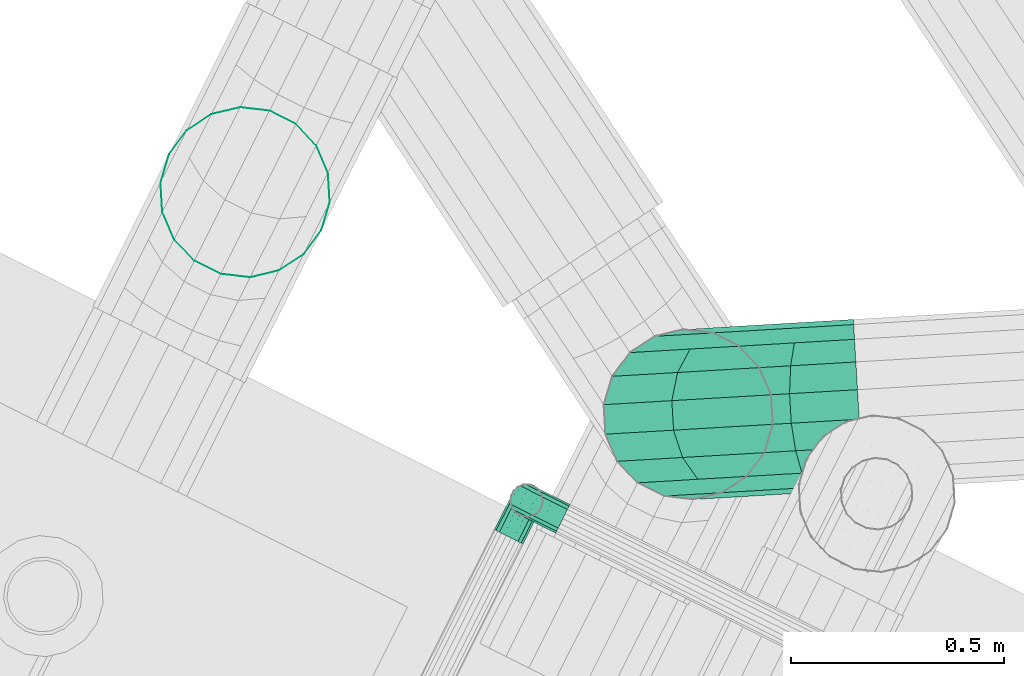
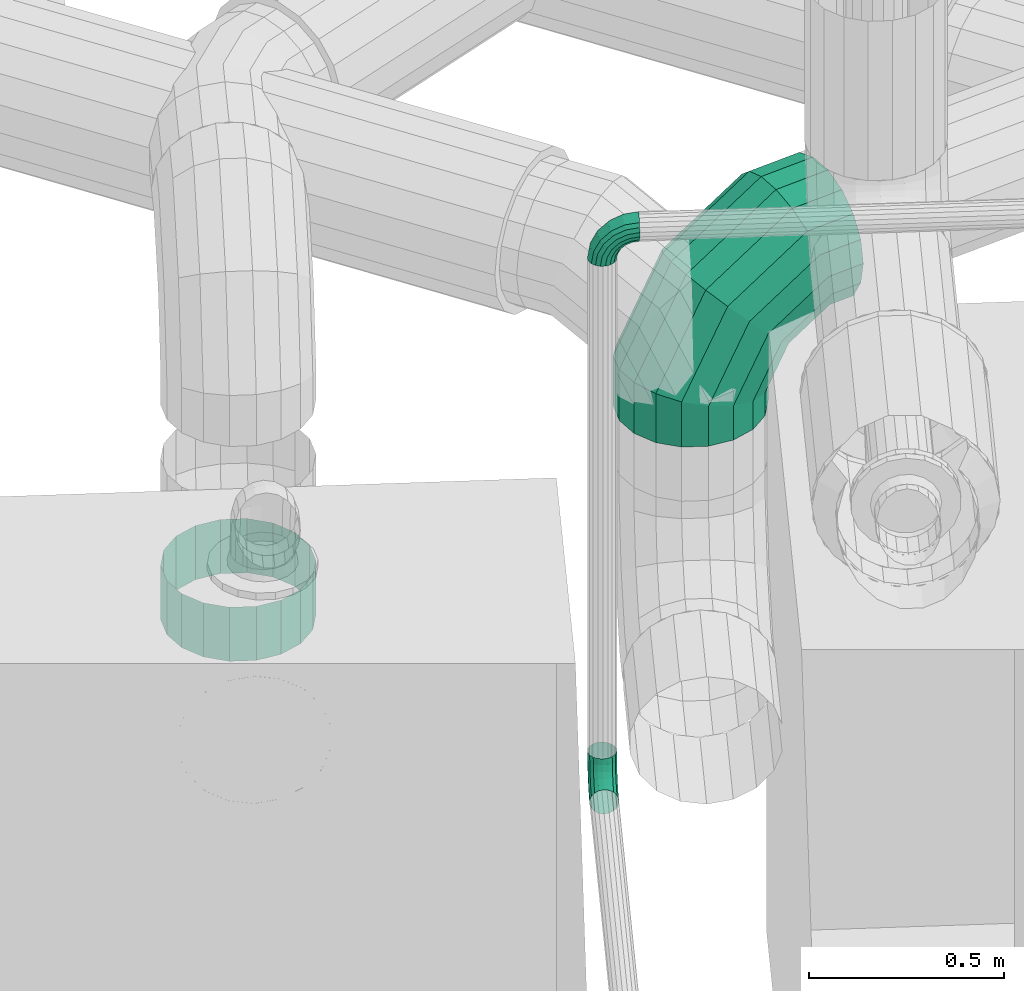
# One storey, part 123 of 206: 3 flow segments, 1 flow fitting.
"""IFC2X3 building model written with IfcOpenShell, lengths in metres."""

from ifc_helpers import new_model, si_unit, derived_unit, direction, frame, origin, place, context, subcontext, project, spatial, face_set, surface_model, source, transform, mapped, material, type_object, type_shapes, element, save


model = new_model("IFC2X3")

# Units and contexts
model_context = context("Model", 3, precision=5.2338327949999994e-05, world=origin(), true_north=direction((0.0, 1.0)))
body_context = subcontext(model_context, "Body", "Model", "MODEL_VIEW")
ifc_project = project(units=[si_unit("LENGTHUNIT", "METRE"), si_unit("AREAUNIT", "SQUARE_METRE"), si_unit("VOLUMEUNIT", "CUBIC_METRE"), si_unit("MASSUNIT", "GRAM", prefix="KILO"), si_unit("PLANEANGLEUNIT", "RADIAN"), derived_unit("THERMALTRANSMITTANCEUNIT", [(si_unit("MASSUNIT", "GRAM", prefix="KILO"), 1), (si_unit("THERMODYNAMICTEMPERATUREUNIT", "KELVIN"), -1), (si_unit("TIMEUNIT", "SECOND"), -3)])], contexts=[model_context])

# Site, building, storey
site_placement = place(None, frame((0.0, 0.0, 0.0), z_axis=(0.0, 0.0, 1.0), x_axis=(0.8939966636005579, -0.4480736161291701, 0.0)))
site = spatial("IfcSite", under=ifc_project, at=site_placement, Name="Default", CompositionType="ELEMENT")
building_placement = place(site_placement, origin())
building = spatial("IfcBuilding", under=site, at=building_placement, CompositionType="ELEMENT")
storey_placement = place(building_placement, origin())
storey = spatial("IfcBuildingStorey", under=building, at=storey_placement, Name="Erdgeschoss", CompositionType="ELEMENT", Elevation=0.0)

# Flow segment
ifc_material_1 = material(Name="IfcSurfaceStyle #251447")
distribution_element_type_1 = type_object("IfcDistributionElementType", Name="Wickelfalzrohr 278729:Wickelfalzrohr 278729", material=ifc_material_1)
shared_shape_1 = source(origin(), body_context, "Body", "SurfaceModel", [
    surface_model("IfcFaceBasedSurfaceModel", [(21.640947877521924, 8.428208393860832, 1.1759251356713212), (21.628886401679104, 8.496612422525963, 1.1759251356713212), (21.628886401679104, 8.496612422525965, 1.345925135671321), (21.640947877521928, 8.428208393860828, 1.345925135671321), (21.594156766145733, 8.556765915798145, 1.1759251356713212), (21.59415676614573, 8.55676591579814, 1.345925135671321), (21.540947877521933, 8.601413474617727, 1.1759251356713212), (21.540947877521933, 8.60141347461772, 1.345925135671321), (21.47567751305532, 8.62516994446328, 1.1759251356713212), (21.475677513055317, 8.625169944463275, 1.345925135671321), (21.406218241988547, 8.625169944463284, 1.1759251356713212), (21.406218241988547, 8.625169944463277, 1.345925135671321), (21.340947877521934, 8.601413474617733, 1.1759251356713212), (21.340947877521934, 8.601413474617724, 1.345925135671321), (21.28773898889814, 8.556765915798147, 1.1759251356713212), (21.287738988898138, 8.556765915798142, 1.345925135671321), (21.25300935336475, 8.496612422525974, 1.1759251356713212), (21.25300935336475, 8.496612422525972, 1.345925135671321), (21.240947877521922, 8.428208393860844, 1.1759251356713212), (21.240947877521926, 8.428208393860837, 1.345925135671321), (21.25300935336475, 8.35980436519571, 1.1759251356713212), (21.25300935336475, 8.3598043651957, 1.345925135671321), (21.287738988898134, 8.29965087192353, 1.1759251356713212), (21.287738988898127, 8.299650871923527, 1.345925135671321), (21.340947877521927, 8.255003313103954, 1.1759251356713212), (21.34094787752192, 8.255003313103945, 1.345925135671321), (21.406218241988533, 8.2312468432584, 1.1759251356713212), (21.406218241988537, 8.23124684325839, 1.345925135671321), (21.475677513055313, 8.231246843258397, 1.1759251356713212), (21.475677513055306, 8.23124684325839, 1.345925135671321), (21.540947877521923, 8.25500331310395, 1.1759251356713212), (21.540947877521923, 8.255003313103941, 1.345925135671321), (21.594156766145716, 8.299650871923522, 1.1759251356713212), (21.594156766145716, 8.299650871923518, 1.345925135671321), (21.628886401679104, 8.359804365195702, 1.1759251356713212), (21.628886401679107, 8.359804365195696, 1.345925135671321)], [face_set([[[0, 1, 2, 3]], [[1, 4, 5, 2]], [[4, 6, 7, 5]], [[6, 8, 9, 7]], [[8, 10, 11, 9]], [[10, 12, 13, 11]], [[12, 14, 15, 13]], [[14, 16, 17, 15]], [[16, 18, 19, 17]], [[18, 20, 21, 19]], [[20, 22, 23, 21]], [[22, 24, 25, 23]], [[24, 26, 27, 25]], [[26, 28, 29, 27]], [[28, 30, 31, 29]], [[30, 32, 33, 31]], [[32, 34, 35, 33]], [[34, 0, 3, 35]]])]),
])
type_shapes(distribution_element_type_1, [shared_shape_1])
flow_segment_1_placement = place(storey_placement, origin())
element("IfcFlowSegment", 1, at=flow_segment_1_placement, inside=storey, type_object=distribution_element_type_1, material=ifc_material_1, Name="Wickelfalzrohr", ObjectType="Wickelfalzrohr", context=body_context, shape_type="MappedRepresentation", body=[
    mapped(shared_shape_1, transform((0.0, 0.0, 0.0), scale=1.0)),
])

# Flow fitting
distribution_element_type_2 = type_object("IfcDistributionElementType", Name="Segmentbogen 4 teilig 296860:Segmentbogen 4 teilig 296860", material=ifc_material_1)
shared_shape_2 = source(origin(), body_context, "Body", "SurfaceModel", [
    surface_model("IfcFaceBasedSurfaceModel", [(22.70550898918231, 8.255003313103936, 1.7999999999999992), (22.7587178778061, 8.299650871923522, 1.7999999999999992), (22.7587178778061, 8.299650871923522, 1.888850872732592), (22.70550898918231, 8.255003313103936, 1.9071796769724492), (22.793447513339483, 8.359804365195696, 1.7999999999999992), (22.793447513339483, 8.359804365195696, 1.8727327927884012), (22.805508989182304, 8.428208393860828, 1.7999999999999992), (22.805508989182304, 8.428208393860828, 1.8607695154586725), (22.793447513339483, 8.496612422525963, 1.7999999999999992), (22.793447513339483, 8.496612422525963, 1.854403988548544), (22.758717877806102, 8.556765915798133, 1.7999999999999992), (22.758717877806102, 8.556765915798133, 1.854403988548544), (22.7055089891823, 8.601413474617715, 1.7999999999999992), (22.7055089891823, 8.601413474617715, 1.8607695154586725), (22.64023862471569, 8.625169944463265, 1.7999999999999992), (22.64023862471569, 8.625169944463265, 1.8727327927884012), (22.570779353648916, 8.625169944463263, 1.7999999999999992), (22.570779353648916, 8.625169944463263, 1.8888508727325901), (22.5055089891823, 8.601413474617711, 1.7999999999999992), (22.505508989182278, 8.601413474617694, 1.9071796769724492), (22.45230010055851, 8.556765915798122, 1.7999999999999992), (22.45230010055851, 8.556765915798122, 1.9255084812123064), (22.417570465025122, 8.49661242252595, 1.7999999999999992), (22.417570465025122, 8.49661242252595, 1.941626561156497), (22.405508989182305, 8.428208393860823, 1.7999999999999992), (22.405508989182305, 8.428208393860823, 1.9535898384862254), (22.417570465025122, 8.359804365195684, 1.7999999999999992), (22.417570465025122, 8.359804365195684, 1.959955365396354), (22.452300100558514, 8.299650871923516, 1.7999999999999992), (22.452300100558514, 8.299650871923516, 1.959955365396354), (22.505508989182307, 8.255003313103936, 1.7999999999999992), (22.505508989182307, 8.255003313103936, 1.9535898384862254), (22.57077935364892, 8.231246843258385, 1.7999999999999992), (22.57077935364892, 8.231246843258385, 1.941626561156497), (22.640238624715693, 8.231246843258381, 1.7999999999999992), (22.640238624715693, 8.231246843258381, 1.9255084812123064), (22.835664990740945, 8.34407630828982, 2.042745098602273), (22.798329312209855, 8.308593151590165, 2.0928203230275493), (22.85643595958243, 8.396170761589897, 1.9987096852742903), (22.858136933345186, 8.458593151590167, 1.9660254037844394), (22.84056274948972, 8.523814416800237, 1.9486344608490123), (22.80583311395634, 8.583967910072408, 1.948634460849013), (22.758136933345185, 8.631798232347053, 1.9660254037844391), (22.70322707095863, 8.661536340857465, 1.9987096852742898), (22.647726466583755, 8.669595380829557, 2.0427450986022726), (22.598329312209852, 8.655003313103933, 2.0928203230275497), (22.560993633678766, 8.619520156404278, 2.1428955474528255), (22.540222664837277, 8.567425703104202, 2.1869309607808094), (22.53852169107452, 8.505003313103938, 2.2196152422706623), (22.55609587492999, 8.439782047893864, 2.2370061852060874), (22.590825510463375, 8.379628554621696, 2.237006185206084), (22.638521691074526, 8.33179823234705, 2.219615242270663), (22.693431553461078, 8.302060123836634, 2.1869309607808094), (22.748932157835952, 8.294001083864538, 2.1428955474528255), (22.96894129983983, 8.421023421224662, 2.131595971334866), (22.95909882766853, 8.401413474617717, 2.1999999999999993), (22.965535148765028, 8.459159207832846, 2.071442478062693), (22.949291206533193, 8.51122109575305, 2.026794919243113), (22.92216873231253, 8.570929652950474, 2.0030384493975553), (22.887439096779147, 8.631083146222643, 2.003038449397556), (22.849291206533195, 8.684426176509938, 2.026794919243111), (22.812326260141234, 8.724524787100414, 2.071442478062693), (22.781002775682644, 8.746542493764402, 2.131595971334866), (22.759098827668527, 8.747823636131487, 2.1999999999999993), (22.749256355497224, 8.728213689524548, 2.2684040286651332), (22.752662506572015, 8.690077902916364, 2.3285575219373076), (22.768906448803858, 8.63801601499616, 2.3732050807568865), (22.79602892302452, 8.578307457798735, 2.3969615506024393), (22.830758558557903, 8.518153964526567, 2.3969615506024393), (22.86890644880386, 8.464810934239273, 2.373205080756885), (22.905871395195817, 8.424712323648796, 2.328557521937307), (22.937194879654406, 8.402694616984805, 2.268404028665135), (23.045888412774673, 8.465448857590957, 2.1315959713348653), (23.05191915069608, 8.455003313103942, 2.1999999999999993), (23.028523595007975, 8.495525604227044, 2.071442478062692), (23.00191915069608, 8.541605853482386, 2.0267949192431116), (22.96928396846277, 8.598131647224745, 2.0030384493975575), (22.934554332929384, 8.658285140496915, 2.0030384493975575), (22.901919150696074, 8.714810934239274, 2.0267949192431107), (22.875314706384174, 8.760891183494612, 2.071442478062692), (22.857949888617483, 8.790967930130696, 2.1315959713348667), (22.851919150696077, 8.801413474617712, 2.199999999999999), (22.857949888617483, 8.7909679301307, 2.2684040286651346), (22.875314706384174, 8.760891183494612, 2.3285575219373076), (22.901919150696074, 8.714810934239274, 2.373205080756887), (22.934554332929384, 8.658285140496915, 2.39696155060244), (22.96928396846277, 8.598131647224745, 2.3969615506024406), (23.00191915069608, 8.541605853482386, 2.373205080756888), (23.028523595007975, 8.495525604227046, 2.3285575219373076), (23.045888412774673, 8.465448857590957, 2.2684040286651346)], [face_set([[[0, 1, 2, 3]], [[1, 4, 5, 2]], [[4, 6, 7, 5]], [[6, 8, 9, 7]], [[8, 10, 11, 9]], [[10, 12, 13, 11]], [[12, 14, 15, 13]], [[14, 16, 17, 15]], [[16, 18, 19, 17]], [[18, 20, 21, 19]], [[20, 22, 23, 21]], [[22, 24, 25, 23]], [[24, 26, 27, 25]], [[26, 28, 29, 27]], [[28, 30, 31, 29]], [[30, 32, 33, 31]], [[32, 34, 35, 33]], [[34, 0, 3, 35]], [[3, 2, 36, 37]], [[2, 5, 38, 36]], [[5, 7, 39, 38]], [[7, 9, 40, 39]], [[9, 11, 41, 40]], [[11, 13, 42, 41]], [[13, 15, 43, 42]], [[15, 17, 44, 43]], [[17, 19, 45, 44]], [[19, 21, 46, 45]], [[21, 23, 47, 46]], [[23, 25, 48, 47]], [[25, 27, 49, 48]], [[27, 29, 50, 49]], [[29, 31, 51, 50]], [[31, 33, 52, 51]], [[33, 35, 53, 52]], [[35, 3, 37, 53]], [[37, 36, 54, 55]], [[36, 38, 56, 54]], [[38, 39, 57, 56]], [[39, 40, 58, 57]], [[40, 41, 59, 58]], [[41, 42, 60, 59]], [[42, 43, 61, 60]], [[43, 44, 62, 61]], [[44, 45, 63, 62]], [[45, 46, 64, 63]], [[46, 47, 65, 64]], [[47, 48, 66, 65]], [[48, 49, 67, 66]], [[49, 50, 68, 67]], [[50, 51, 69, 68]], [[51, 52, 70, 69]], [[52, 53, 71, 70]], [[53, 37, 55, 71]], [[55, 54, 72, 73]], [[54, 56, 74, 72]], [[56, 57, 75, 74]], [[57, 58, 76, 75]], [[58, 59, 77, 76]], [[59, 60, 78, 77]], [[60, 61, 79, 78]], [[61, 62, 80, 79]], [[62, 63, 81, 80]], [[63, 64, 82, 81]], [[64, 65, 83, 82]], [[65, 66, 84, 83]], [[66, 67, 85, 84]], [[67, 68, 86, 85]], [[68, 69, 87, 86]], [[69, 70, 88, 87]], [[70, 71, 89, 88]], [[71, 55, 73, 89]]])]),
])
type_shapes(distribution_element_type_2, [shared_shape_2])
flow_fitting_placement = place(storey_placement, origin())
element("IfcFlowFitting", 2, at=flow_fitting_placement, inside=storey, type_object=distribution_element_type_2, material=ifc_material_1, Name="Segmentbogen 4 teilig", ObjectType="Segmentbogen 4 teilig", context=body_context, shape_type="MappedRepresentation", body=[
    mapped(shared_shape_2, transform((0.0, 0.0, 0.0), scale=1.0)),
])

# Flow segments
ifc_material_2 = material(Name="IfcSurfaceStyle #352577")
distribution_element_type_3 = type_object("IfcDistributionElementType", Name="Rohrbogen 358820:Rohrbogen 358820", material=ifc_material_2)
shared_shape_3 = source(origin(), body_context, "Body", "SurfaceModel", [
    surface_model("IfcFaceBasedSurfaceModel", [(22.31871673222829, 8.077162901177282, 2.510164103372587), (22.321011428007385, 8.06414903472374, 2.510164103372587), (22.327411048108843, 8.06414903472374, 2.5505697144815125), (22.32522866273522, 8.077162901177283, 2.5512788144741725), (22.34598346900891, 8.06414903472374, 2.5870201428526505), (22.344127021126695, 8.077162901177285, 2.588368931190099), (22.37491069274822, 8.064149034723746, 2.615947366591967), (22.373561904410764, 8.077162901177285, 2.6178038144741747), (22.411361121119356, 8.06414903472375, 2.6345197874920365), (22.41065202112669, 8.077162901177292, 2.636702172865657), (22.451766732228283, 8.064149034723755, 2.640919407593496), (22.451766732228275, 8.077162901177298, 2.6432141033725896), (22.327618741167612, 8.052704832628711, 2.5101641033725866), (22.333694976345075, 8.052704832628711, 2.548527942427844), (22.351328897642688, 8.052704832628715, 2.5831364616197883), (22.37879437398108, 8.052704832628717, 2.6106019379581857), (22.41340289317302, 8.052704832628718, 2.6282358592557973), (22.45176673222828, 8.052704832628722, 2.6343120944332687), (22.337741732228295, 8.044210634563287, 2.5101641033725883), (22.343322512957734, 8.044210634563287, 2.545399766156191), (22.359518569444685, 8.04421063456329, 2.577186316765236), (22.384744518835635, 8.044210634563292, 2.6024122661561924), (22.416531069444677, 8.044210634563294, 2.6186083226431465), (22.451766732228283, 8.044210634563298, 2.624189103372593), (22.350159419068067, 8.039690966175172, 2.510164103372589), (22.355132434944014, 8.039690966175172, 2.5415624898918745), (22.369564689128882, 8.039690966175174, 2.569887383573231), (22.392043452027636, 8.039690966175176, 2.592366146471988), (22.420368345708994, 8.039690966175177, 2.606798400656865), (22.45176673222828, 8.039690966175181, 2.611771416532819), (22.363374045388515, 8.039690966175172, 2.510164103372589), (22.36770029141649, 8.039690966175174, 2.5374789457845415), (22.380255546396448, 8.039690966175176, 2.5621200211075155), (22.39981081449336, 8.039690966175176, 2.5816752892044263), (22.424451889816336, 8.039690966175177, 2.5942305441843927), (22.45176673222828, 8.039690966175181, 2.5985567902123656), (22.375791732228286, 8.04421063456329, 2.510164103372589), (22.379510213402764, 8.044210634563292, 2.533641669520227), (22.390301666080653, 8.044210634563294, 2.554821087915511), (22.40710974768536, 8.044210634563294, 2.5716291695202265), (22.42828916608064, 8.044210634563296, 2.582420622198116), (22.45176673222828, 8.0442106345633, 2.5861391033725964), (22.385914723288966, 8.052704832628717, 2.510164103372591), (22.38913775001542, 8.052704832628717, 2.5305134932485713), (22.398491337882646, 8.052704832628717, 2.548870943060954), (22.413059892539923, 8.05270483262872, 2.563439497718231), (22.431417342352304, 8.052704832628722, 2.572793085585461), (22.451766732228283, 8.052704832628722, 2.5760161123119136), (22.39252203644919, 8.064149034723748, 2.5101641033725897), (22.395421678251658, 8.064149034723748, 2.528471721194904), (22.403836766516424, 8.064149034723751, 2.5449872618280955), (22.416943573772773, 8.064149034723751, 2.5580940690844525), (22.43345911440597, 8.064149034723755, 2.566509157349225), (22.45176673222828, 8.064149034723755, 2.56940879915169), (22.39481673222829, 8.077162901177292, 2.510164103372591), (22.397604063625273, 8.077162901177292, 2.527762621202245), (22.405693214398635, 8.077162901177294, 2.543638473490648), (22.41829236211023, 8.077162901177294, 2.5562376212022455), (22.434168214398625, 8.077162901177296, 2.5643267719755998), (22.45176673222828, 8.077162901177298, 2.567114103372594), (22.392522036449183, 8.090176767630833, 2.510164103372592), (22.39542167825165, 8.090176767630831, 2.5284717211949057), (22.403836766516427, 8.090176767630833, 2.5449872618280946), (22.416943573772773, 8.090176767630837, 2.558094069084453), (22.433459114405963, 8.090176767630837, 2.5665091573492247), (22.451766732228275, 8.090176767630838, 2.5694087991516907), (22.38591472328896, 8.101620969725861, 2.5101641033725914), (22.389137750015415, 8.101620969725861, 2.530513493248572), (22.398491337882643, 8.101620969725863, 2.548870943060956), (22.413059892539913, 8.101620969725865, 2.5634394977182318), (22.431417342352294, 8.101620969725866, 2.5727930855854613), (22.45176673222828, 8.101620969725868, 2.5760161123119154), (22.375791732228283, 8.110115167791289, 2.5101641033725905), (22.37951021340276, 8.11011516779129, 2.5336416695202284), (22.390301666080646, 8.11011516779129, 2.5548210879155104), (22.40710974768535, 8.11011516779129, 2.571629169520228), (22.42828916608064, 8.11011516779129, 2.5824206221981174), (22.451766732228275, 8.110115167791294, 2.5861391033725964), (22.363374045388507, 8.114634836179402, 2.510164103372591), (22.367700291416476, 8.114634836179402, 2.5374789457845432), (22.380255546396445, 8.114634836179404, 2.562120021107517), (22.39981081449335, 8.114634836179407, 2.5816752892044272), (22.42445188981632, 8.114634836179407, 2.5942305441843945), (22.451766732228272, 8.11463483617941, 2.598556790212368), (22.350159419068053, 8.114634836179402, 2.510164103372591), (22.355132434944, 8.114634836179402, 2.5415624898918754), (22.369564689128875, 8.114634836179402, 2.5698873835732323), (22.39204345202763, 8.114634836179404, 2.5923661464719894), (22.420368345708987, 8.114634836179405, 2.6067984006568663), (22.451766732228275, 8.11463483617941, 2.6117714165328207), (22.33774173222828, 8.11011516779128, 2.510164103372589), (22.343322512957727, 8.11011516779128, 2.5453997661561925), (22.359518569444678, 8.110115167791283, 2.577186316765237), (22.384744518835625, 8.110115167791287, 2.602412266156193), (22.416531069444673, 8.11011516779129, 2.618608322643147), (22.45176673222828, 8.110115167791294, 2.6241891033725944), (22.32761874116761, 8.101620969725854, 2.510164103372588), (22.333694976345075, 8.101620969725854, 2.5485279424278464), (22.351328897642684, 8.10162096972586, 2.583136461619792), (22.378794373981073, 8.101620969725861, 2.6106019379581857), (22.413402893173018, 8.101620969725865, 2.6282358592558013), (22.451766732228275, 8.101620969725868, 2.6343120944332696), (22.32101142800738, 8.090176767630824, 2.510164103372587), (22.327411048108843, 8.090176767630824, 2.5505697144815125), (22.345983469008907, 8.090176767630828, 2.587020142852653), (22.37491069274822, 8.090176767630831, 2.6159473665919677), (22.411361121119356, 8.090176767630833, 2.6345197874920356), (22.45176673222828, 8.090176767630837, 2.640919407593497)], [face_set([[[0, 1, 2, 3]], [[3, 2, 4, 5]], [[5, 4, 6, 7]], [[7, 6, 8, 9]], [[9, 8, 10, 11]], [[1, 12, 13, 2]], [[2, 13, 14, 4]], [[4, 14, 15, 6]], [[6, 15, 16, 8]], [[8, 16, 17, 10]], [[12, 18, 19, 13]], [[13, 19, 20, 14]], [[14, 20, 21, 15]], [[15, 21, 22, 16]], [[16, 22, 23, 17]], [[18, 24, 25, 19]], [[19, 25, 26, 20]], [[20, 26, 27, 21]], [[21, 27, 28, 22]], [[22, 28, 29, 23]], [[24, 30, 31, 25]], [[25, 31, 32, 26]], [[26, 32, 33, 27]], [[27, 33, 34, 28]], [[28, 34, 35, 29]], [[30, 36, 37, 31]], [[31, 37, 38, 32]], [[32, 38, 39, 33]], [[33, 39, 40, 34]], [[34, 40, 41, 35]], [[36, 42, 43, 37]], [[37, 43, 44, 38]], [[38, 44, 45, 39]], [[39, 45, 46, 40]], [[40, 46, 47, 41]], [[42, 48, 49, 43]], [[43, 49, 50, 44]], [[44, 50, 51, 45]], [[45, 51, 52, 46]], [[46, 52, 53, 47]], [[48, 54, 55, 49]], [[49, 55, 56, 50]], [[50, 56, 57, 51]], [[51, 57, 58, 52]], [[52, 58, 59, 53]], [[54, 60, 61, 55]], [[55, 61, 62, 56]], [[56, 62, 63, 57]], [[57, 63, 64, 58]], [[58, 64, 65, 59]], [[60, 66, 67, 61]], [[61, 67, 68, 62]], [[62, 68, 69, 63]], [[63, 69, 70, 64]], [[64, 70, 71, 65]], [[66, 72, 73, 67]], [[67, 73, 74, 68]], [[68, 74, 75, 69]], [[69, 75, 76, 70]], [[70, 76, 77, 71]], [[72, 78, 79, 73]], [[73, 79, 80, 74]], [[74, 80, 81, 75]], [[75, 81, 82, 76]], [[76, 82, 83, 77]], [[78, 84, 85, 79]], [[79, 85, 86, 80]], [[80, 86, 87, 81]], [[81, 87, 88, 82]], [[82, 88, 89, 83]], [[84, 90, 91, 85]], [[85, 91, 92, 86]], [[86, 92, 93, 87]], [[87, 93, 94, 88]], [[88, 94, 95, 89]], [[90, 96, 97, 91]], [[91, 97, 98, 92]], [[92, 98, 99, 93]], [[93, 99, 100, 94]], [[94, 100, 101, 95]], [[96, 102, 103, 97]], [[97, 103, 104, 98]], [[98, 104, 105, 99]], [[99, 105, 106, 100]], [[100, 106, 107, 101]], [[102, 0, 3, 103]], [[103, 3, 5, 104]], [[104, 5, 7, 105]], [[105, 7, 9, 106]], [[106, 9, 11, 107]]])]),
])
type_shapes(distribution_element_type_3, [shared_shape_3])
flow_segment_2_placement = place(storey_placement, origin())
element("IfcFlowSegment", 3, at=flow_segment_2_placement, inside=storey, type_object=distribution_element_type_3, material=ifc_material_2, Name="Rohrbogen", ObjectType="Rohrbogen", context=body_context, shape_type="MappedRepresentation", body=[
    mapped(shared_shape_3, transform((0.0, 0.0, 0.0), scale=1.0)),
])
distribution_element_type_4 = type_object("IfcDistributionElementType", Name="Rohrbogen 359314:Rohrbogen 359314", material=ifc_material_2)
shared_shape_4 = source(origin(), body_context, "Body", "SurfaceModel", [
    surface_model("IfcFaceBasedSurfaceModel", [(22.356766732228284, 7.9821629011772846, 0.8319499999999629), (22.34375286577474, 7.9821629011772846, 0.8342446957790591), (22.34375286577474, 8.022568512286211, 0.8406443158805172), (22.356766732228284, 8.023277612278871, 0.8384619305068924), (22.343752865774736, 8.059018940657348, 0.8592167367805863), (22.356766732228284, 8.060367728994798, 0.8573602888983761), (22.34375286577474, 8.087946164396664, 0.8881439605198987), (22.356766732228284, 8.08980261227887, 0.8867951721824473), (22.343752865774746, 8.106518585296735, 0.9245943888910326), (22.356766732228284, 8.108700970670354, 0.9238852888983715), (22.343752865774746, 8.11291820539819, 0.9649999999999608), (22.356766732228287, 8.115212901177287, 0.9649999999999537), (22.33230866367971, 7.9821629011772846, 0.8408520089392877), (22.33230866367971, 8.020526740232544, 0.8469282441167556), (22.33230866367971, 8.055135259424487, 0.8645621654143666), (22.33230866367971, 8.082600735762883, 0.8920276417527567), (22.33230866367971, 8.100234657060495, 0.9266361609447), (22.33230866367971, 8.106310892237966, 0.9649999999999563), (22.323814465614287, 7.982162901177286, 0.8509749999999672), (22.323814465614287, 8.017398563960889, 0.8565557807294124), (22.323814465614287, 8.049185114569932, 0.8727518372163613), (22.323814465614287, 8.074411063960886, 0.8979777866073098), (22.32381446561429, 8.090607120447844, 0.9297643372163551), (22.32381446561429, 8.096187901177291, 0.9649999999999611), (22.31929479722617, 7.982162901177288, 0.8633926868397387), (22.31929479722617, 8.013561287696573, 0.8683657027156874), (22.31929479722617, 8.04188618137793, 0.8827979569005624), (22.31929479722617, 8.064364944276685, 0.9052767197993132), (22.319294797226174, 8.078797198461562, 0.9336016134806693), (22.319294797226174, 8.083770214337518, 0.964999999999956), (22.31929479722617, 7.982162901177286, 0.8766073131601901), (22.31929479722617, 8.00947774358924, 0.880933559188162), (22.31929479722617, 8.034118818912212, 0.8934888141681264), (22.31929479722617, 8.053674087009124, 0.9130440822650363), (22.31929479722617, 8.066229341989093, 0.9376851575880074), (22.319294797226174, 8.070555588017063, 0.9649999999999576), (22.323814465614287, 7.982162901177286, 0.8890249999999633), (22.323814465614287, 8.005640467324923, 0.892743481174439), (22.323814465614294, 8.026819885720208, 0.9035349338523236), (22.32381446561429, 8.043627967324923, 0.9203430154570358), (22.323814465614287, 8.054419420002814, 0.941522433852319), (22.323814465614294, 8.058137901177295, 0.964999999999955), (22.33230866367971, 7.982162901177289, 0.8991479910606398), (22.33230866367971, 8.002512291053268, 0.9023710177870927), (22.33230866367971, 8.02086974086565, 0.9117246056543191), (22.33230866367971, 8.035438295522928, 0.926293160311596), (22.33230866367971, 8.04479188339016, 0.9446506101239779), (22.332308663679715, 8.048014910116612, 0.9649999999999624), (22.343752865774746, 7.982162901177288, 0.9057553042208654), (22.343752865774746, 8.000470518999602, 0.9086549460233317), (22.343752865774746, 8.016986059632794, 0.9170700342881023), (22.343752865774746, 8.03009286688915, 0.9301768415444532), (22.343752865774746, 8.038507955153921, 0.9466923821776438), (22.343752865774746, 8.041407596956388, 0.9649999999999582), (22.356766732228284, 7.982162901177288, 0.9080499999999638), (22.356766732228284, 7.99976141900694, 0.9108373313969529), (22.356766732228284, 8.015637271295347, 0.91892648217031), (22.356766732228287, 8.02823641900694, 0.9315256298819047), (22.356766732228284, 8.036325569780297, 0.9474014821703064), (22.356766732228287, 8.03911290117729, 0.964999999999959), (22.369780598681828, 7.982162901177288, 0.9057553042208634), (22.36978059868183, 8.000470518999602, 0.9086549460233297), (22.369780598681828, 8.016986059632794, 0.9170700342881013), (22.369780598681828, 8.030092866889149, 0.9301768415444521), (22.369780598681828, 8.038507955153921, 0.9466923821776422), (22.36978059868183, 8.041407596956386, 0.9649999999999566), (22.38122480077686, 7.982162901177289, 0.8991479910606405), (22.38122480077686, 8.00251229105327, 0.9023710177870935), (22.38122480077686, 8.02086974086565, 0.9117246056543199), (22.38122480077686, 8.035438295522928, 0.9262931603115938), (22.38122480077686, 8.044791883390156, 0.944650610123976), (22.38122480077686, 8.048014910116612, 0.9649999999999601), (22.38971899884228, 7.982162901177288, 0.8890249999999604), (22.38971899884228, 8.005640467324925, 0.8927434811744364), (22.38971899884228, 8.02681988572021, 0.903534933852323), (22.38971899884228, 8.043627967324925, 0.9203430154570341), (22.38971899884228, 8.054419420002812, 0.9415224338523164), (22.389718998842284, 8.058137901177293, 0.9649999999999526), (22.3942386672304, 7.982162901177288, 0.8766073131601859), (22.3942386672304, 8.009477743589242, 0.8809335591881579), (22.3942386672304, 8.034118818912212, 0.8934888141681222), (22.3942386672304, 8.053674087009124, 0.9130440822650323), (22.3942386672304, 8.066229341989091, 0.9376851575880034), (22.394238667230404, 8.070555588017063, 0.9649999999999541), (22.3942386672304, 7.982162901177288, 0.8633926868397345), (22.3942386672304, 8.013561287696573, 0.8683657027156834), (22.3942386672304, 8.041886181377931, 0.8827979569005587), (22.3942386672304, 8.064364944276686, 0.9052767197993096), (22.394238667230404, 8.078797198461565, 0.9336016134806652), (22.3942386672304, 8.083770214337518, 0.9649999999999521), (22.38971899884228, 7.982162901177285, 0.8509749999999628), (22.38971899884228, 8.01739856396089, 0.8565557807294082), (22.38971899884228, 8.049185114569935, 0.8727518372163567), (22.38971899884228, 8.07441106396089, 0.8979777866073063), (22.38971899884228, 8.090607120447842, 0.9297643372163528), (22.389718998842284, 8.096187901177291, 0.9649999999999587), (22.381224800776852, 7.9821629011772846, 0.8408520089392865), (22.381224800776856, 8.020526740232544, 0.8469282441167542), (22.381224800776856, 8.055135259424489, 0.8645621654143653), (22.38122480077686, 8.082600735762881, 0.8920276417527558), (22.38122480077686, 8.100234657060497, 0.926636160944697), (22.38122480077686, 8.106310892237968, 0.9649999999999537), (22.36978059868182, 7.982162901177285, 0.8342446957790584), (22.36978059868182, 8.022568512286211, 0.8406443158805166), (22.36978059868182, 8.059018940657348, 0.8592167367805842), (22.369780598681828, 8.087946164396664, 0.8881439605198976), (22.369780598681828, 8.106518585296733, 0.9245943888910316), (22.369780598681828, 8.112918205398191, 0.9649999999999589)], [face_set([[[0, 1, 2, 3]], [[3, 2, 4, 5]], [[5, 4, 6, 7]], [[7, 6, 8, 9]], [[9, 8, 10, 11]], [[1, 12, 13, 2]], [[2, 13, 14, 4]], [[4, 14, 15, 6]], [[6, 15, 16, 8]], [[8, 16, 17, 10]], [[12, 18, 19, 13]], [[13, 19, 20, 14]], [[14, 20, 21, 15]], [[15, 21, 22, 16]], [[16, 22, 23, 17]], [[18, 24, 25, 19]], [[19, 25, 26, 20]], [[20, 26, 27, 21]], [[21, 27, 28, 22]], [[22, 28, 29, 23]], [[24, 30, 31, 25]], [[25, 31, 32, 26]], [[26, 32, 33, 27]], [[27, 33, 34, 28]], [[28, 34, 35, 29]], [[30, 36, 37, 31]], [[31, 37, 38, 32]], [[32, 38, 39, 33]], [[33, 39, 40, 34]], [[34, 40, 41, 35]], [[36, 42, 43, 37]], [[37, 43, 44, 38]], [[38, 44, 45, 39]], [[39, 45, 46, 40]], [[40, 46, 47, 41]], [[42, 48, 49, 43]], [[43, 49, 50, 44]], [[44, 50, 51, 45]], [[45, 51, 52, 46]], [[46, 52, 53, 47]], [[48, 54, 55, 49]], [[49, 55, 56, 50]], [[50, 56, 57, 51]], [[51, 57, 58, 52]], [[52, 58, 59, 53]], [[54, 60, 61, 55]], [[55, 61, 62, 56]], [[56, 62, 63, 57]], [[57, 63, 64, 58]], [[58, 64, 65, 59]], [[60, 66, 67, 61]], [[61, 67, 68, 62]], [[62, 68, 69, 63]], [[63, 69, 70, 64]], [[64, 70, 71, 65]], [[66, 72, 73, 67]], [[67, 73, 74, 68]], [[68, 74, 75, 69]], [[69, 75, 76, 70]], [[70, 76, 77, 71]], [[72, 78, 79, 73]], [[73, 79, 80, 74]], [[74, 80, 81, 75]], [[75, 81, 82, 76]], [[76, 82, 83, 77]], [[78, 84, 85, 79]], [[79, 85, 86, 80]], [[80, 86, 87, 81]], [[81, 87, 88, 82]], [[82, 88, 89, 83]], [[84, 90, 91, 85]], [[85, 91, 92, 86]], [[86, 92, 93, 87]], [[87, 93, 94, 88]], [[88, 94, 95, 89]], [[90, 96, 97, 91]], [[91, 97, 98, 92]], [[92, 98, 99, 93]], [[93, 99, 100, 94]], [[94, 100, 101, 95]], [[96, 102, 103, 97]], [[97, 103, 104, 98]], [[98, 104, 105, 99]], [[99, 105, 106, 100]], [[100, 106, 107, 101]], [[102, 0, 3, 103]], [[103, 3, 5, 104]], [[104, 5, 7, 105]], [[105, 7, 9, 106]], [[106, 9, 11, 107]]])]),
])
type_shapes(distribution_element_type_4, [shared_shape_4])
flow_segment_3_placement = place(storey_placement, origin())
element("IfcFlowSegment", 4, at=flow_segment_3_placement, inside=storey, type_object=distribution_element_type_4, material=ifc_material_2, Name="Rohrbogen", ObjectType="Rohrbogen", context=body_context, shape_type="MappedRepresentation", body=[
    mapped(shared_shape_4, transform((0.0, 0.0, 0.0), scale=1.0)),
])

save(model, "model.ifc")
